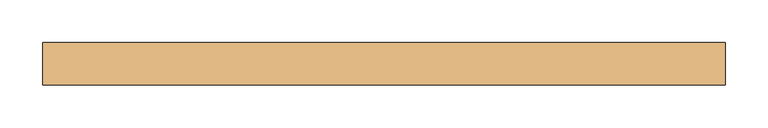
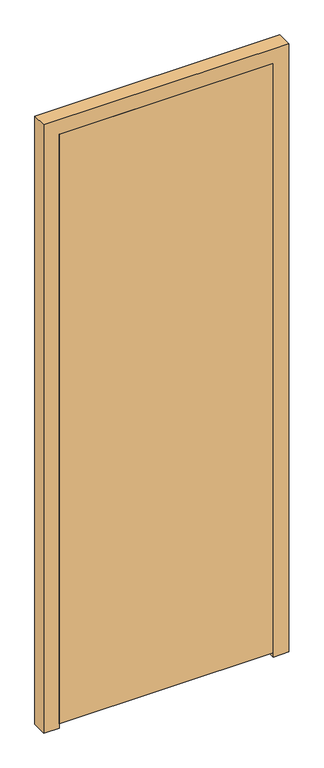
"""IFC4 building model written with IfcOpenShell, lengths in millimetres: door geometry, Dr_Дверь_v2.1 : ДВДГ 21-8_выполняется собственником."""

from ifc_helpers import new_model, si_unit, frame, origin, place, context, project, spatial, polyline, outline, extrude, source, transform, mapped, element, save


def door_b01a8a20(model_context):
    return source(origin(), model_context, "Body", "SweptSolid", [
        extrude(outline(polyline([(0.0, -275.0), (0.0, -225.0), (2050.0, -225.0), (2050.0, 475.0), (0.0, 475.0), (0.0, 525.0), (2100.0, 525.0), (2100.0, -275.0), (0.0, -275.0)])), frame((0.0, 12.5, 0.0), z_axis=(0.0, 1.0, 0.0), x_axis=(0.0, 0.0, 1.0)), (0.0, 0.0, 1.0), 50.0),
        extrude(outline(polyline([(-225.0, 42.5), (475.0, 42.5), (475.0, 12.5), (-225.0, 12.5), (-225.0, 42.5)])), frame((0.0, 0.0, 14.0), z_axis=(0.0, 0.0, 1.0), x_axis=(1.0, 0.0, 0.0)), (0.0, 0.0, 1.0), 2036.0),
    ])


if __name__ == "__main__":
    model = new_model("IFC4")
    model_context = context("Model", 3, world=origin())
    ifc_project = project(units=[si_unit("LENGTHUNIT", "METRE", prefix="MILLI")], contexts=[model_context])
    site = spatial("IfcSite", under=ifc_project)
    building = spatial("IfcBuilding", under=site)
    placement = place(None, origin())
    door_shape = door_b01a8a20(model_context)
    element("IfcDoor", 1, ObjectType="Dr_Дверь_v2.1 : ДВДГ 21-8_выполняется собственником", at=placement, inside=building, context=model_context, shape_type="MappedRepresentation", body=[
        mapped(door_shape, transform((0.0, 0.0, 0.0), x_axis=(1.0, 0.0, 0.0), y_axis=(0.0, 1.0, 0.0), z_axis=(0.0, 0.0, 1.0))),
    ])
    save(model, "model.ifc")
